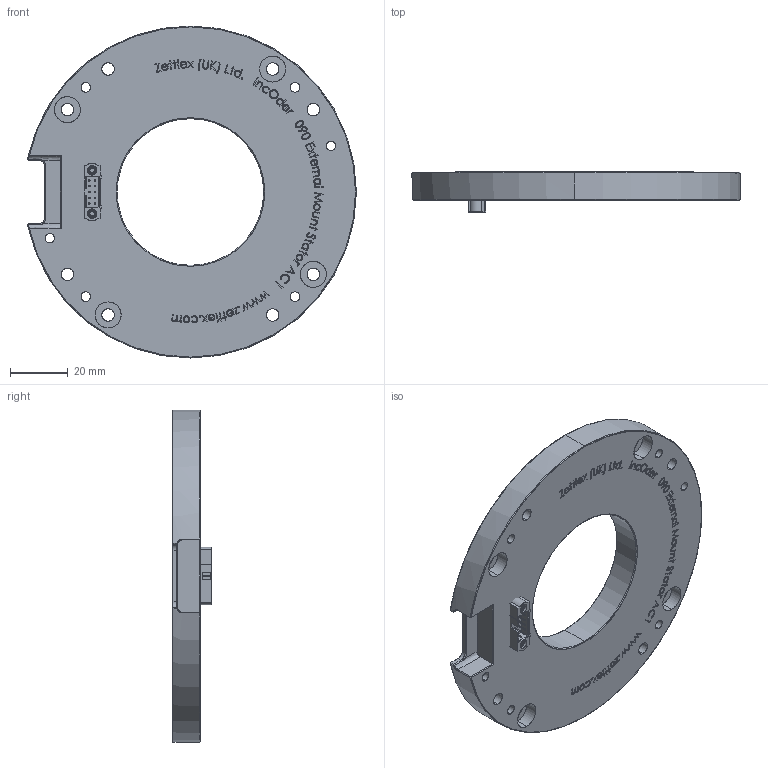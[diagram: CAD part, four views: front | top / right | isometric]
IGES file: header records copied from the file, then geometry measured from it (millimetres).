
Start section: SolidWorks IGES file using analytic representation for surfaces
Global section: file name: C:\Zettlex Data\Mechanical Drawings\1011\090 External Mount Stator AC1 Rev 1-1.IGS; native system: SolidWorks 2017; preprocessor: SolidWorks 2017; author: Istvan; date: 170810.115915; units: millimetre
Bounding box: 113.89 x 13.8 x 115 mm (x, y, z)
Surface area: 24568.2 mm2 (no closed solid volume)
Topology: 0 solids, 0 shells, 1356 faces, 15142 edges, 15114 vertices
Faces by surface type: bspline 1073, revolution 283
